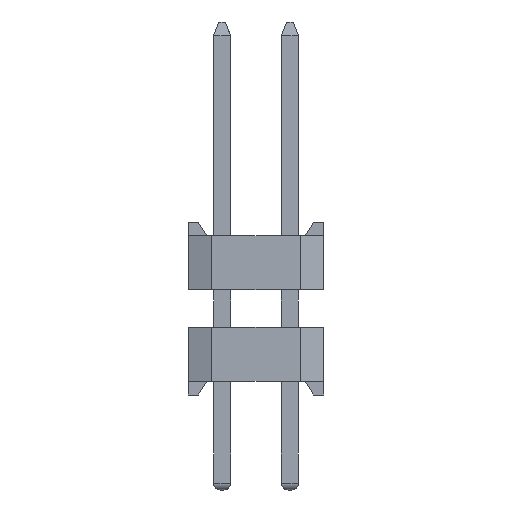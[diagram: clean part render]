
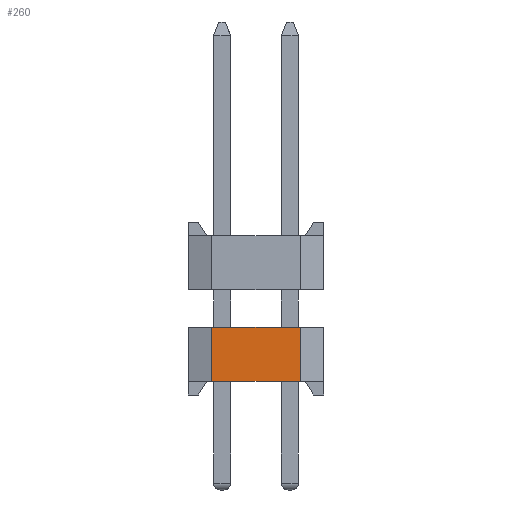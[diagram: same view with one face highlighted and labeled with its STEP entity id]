
A CAD part, left-side view. The second image highlights one B-rep face of the part: STEP entity #260.
In plain terms, the highlighted planar face has unit normal (-1, 0, 0).
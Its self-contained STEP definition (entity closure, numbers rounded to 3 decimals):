
#260=ADVANCED_FACE('',(#1500),#916,.T.);
#916=PLANE('',#12349);
#1500=FACE_OUTER_BOUND('',#2174,.T.);
#2174=EDGE_LOOP('',(#3074,#3075,#3076,#3077));
#3074=ORIENTED_EDGE('',*,*,#7561,.T.);
#3075=ORIENTED_EDGE('',*,*,#7562,.F.);
#3076=ORIENTED_EDGE('',*,*,#7563,.F.);
#3077=ORIENTED_EDGE('',*,*,#7470,.F.);
#6382=VERTEX_POINT('',#16367);
#6383=VERTEX_POINT('',#16368);
#6464=VERTEX_POINT('',#16542);
#6465=VERTEX_POINT('',#16544);
#7470=EDGE_CURVE('',#6382,#6383,#9174,.T.);
#7561=EDGE_CURVE('',#6382,#6464,#9265,.T.);
#7562=EDGE_CURVE('',#6465,#6464,#9266,.T.);
#7563=EDGE_CURVE('',#6383,#6465,#9267,.T.);
#9174=LINE('',#16366,#10806);
#9265=LINE('',#16541,#10897);
#9266=LINE('',#16543,#10898);
#9267=LINE('',#16545,#10899);
#10806=VECTOR('',#13185,1.);
#10897=VECTOR('',#13280,1.);
#10898=VECTOR('',#13281,1.);
#10899=VECTOR('',#13282,1.);
#12349=AXIS2_PLACEMENT_3D('',#16546,#13283,#13284);
#13185=DIRECTION('',(0.,-1.,0.));
#13280=DIRECTION('',(0.,0.,-1.));
#13281=DIRECTION('',(0.,1.,0.));
#13282=DIRECTION('',(0.,0.,-1.));
#13283=DIRECTION('',(-1.,0.,0.));
#13284=DIRECTION('',(0.,0.,1.));
#16366=CARTESIAN_POINT('',(0.,3.,1.6));
#16367=CARTESIAN_POINT('',(0.,3.3,1.6));
#16368=CARTESIAN_POINT('',(0.,0.7,1.6));
#16541=CARTESIAN_POINT('',(0.,3.3,0.));
#16542=CARTESIAN_POINT('',(0.,3.3,0.));
#16543=CARTESIAN_POINT('',(0.,3.,0.));
#16544=CARTESIAN_POINT('',(0.,0.7,0.));
#16545=CARTESIAN_POINT('',(0.,0.7,0.));
#16546=CARTESIAN_POINT('',(0.,3.,0.));
